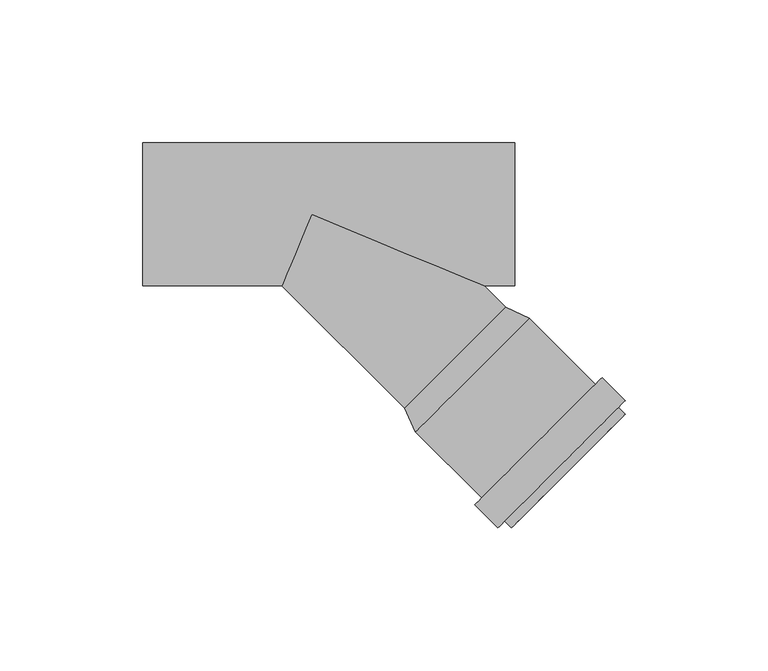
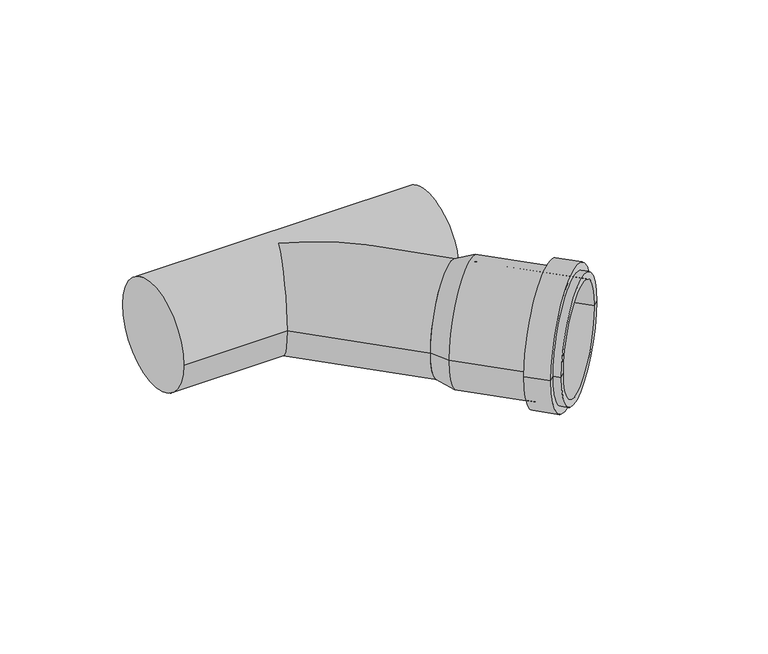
"""IFC4 building model written with IfcOpenShell, lengths in millimetres: pipe fitting geometry, pf_HTEA : pf_HTEA."""

from ifc_helpers import new_model, si_unit, frame, origin, place, context, project, spatial, polyline, circle_curve, ellipse_curve, source, transform, mapped, element, save
from ifc_brep_helpers import plane_surface, cylinder_surface, revolved_surface, advanced_brep


def pipe_fitting_3548051f(model_context):
    return source(origin(), model_context, "Body", "AdvancedBrep", [
        advanced_brep(
        [(32.5269119, -67.882251, 0.0), (67.882251, -32.5269119, 0.0), (76.0846897, -36.3452886, 0.0), (36.3452886, -76.0846897, 0.0), (50.2045815, -50.2045815, 0.0), (69.9328607, -109.6722618, 0.0), (109.6722618, -69.9328607, 0.0), (107.4802307, -72.1248917, 0.0), (72.1248917, -107.4802307, 0.0), (67.5286976, -107.2680987, 0.0), (107.2680987, -67.5286976, 0.0), (65.1245345, -109.6722618, 0.0), (109.6722618, -65.1245345, 0.0), (57.0635172, -101.6112445, 0.0), (101.6112445, -57.0635172, 0.0), (59.4676803, -99.2070814, 0.0), (99.2070814, -59.4676803, 0.0), (38.5373196, -73.8926586, 0.0), (73.8926586, -38.5373196, 0.0), (56.2149891, -56.2149891, 0.0)],
        [
            (0, 1, circle_curve(frame((50.2045815, -50.2045815, 0.0), z_axis=(0.7071067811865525, -0.7071067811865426, 0.0), x_axis=(0.7071067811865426, 0.7071067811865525, 0.0)), 25.0)),
            (1, 2),
            (2, 3, circle_curve(frame((56.2149891, -56.2149891, 0.0), z_axis=(-0.7071067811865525, 0.7071067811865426, 0.0), x_axis=(0.7071067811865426, 0.7071067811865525, 0.0)), 28.1)),
            (3, 0),
            (1, 0, circle_curve(frame((50.2045815, -50.2045815, 0.0), z_axis=(0.7071067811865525, -0.7071067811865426, 0.0), x_axis=(0.7071067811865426, 0.7071067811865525, 0.0)), 25.0)),
            (3, 2, circle_curve(frame((56.2149891, -56.2149891, 0.0), z_axis=(-0.7071067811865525, 0.7071067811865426, 0.0), x_axis=(0.7071067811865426, 0.7071067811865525, 0.0)), 28.1)),
            (4, 1),
            (0, 4),
            (5, 6, circle_curve(frame((89.8025612, -89.8025612, 0.0), z_axis=(0.7071067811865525, -0.7071067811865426, 0.0), x_axis=(0.7071067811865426, 0.7071067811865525, 0.0)), 28.1)),
            (6, 7),
            (7, 8, circle_curve(frame((89.8025612, -89.8025612, 0.0), z_axis=(-0.7071067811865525, 0.7071067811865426, 0.0), x_axis=(0.7071067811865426, 0.7071067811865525, 0.0)), 25.0)),
            (8, 5),
            (6, 5, circle_curve(frame((89.8025612, -89.8025612, 0.0), z_axis=(0.7071067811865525, -0.7071067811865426, 0.0), x_axis=(0.7071067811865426, 0.7071067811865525, 0.0)), 28.1)),
            (8, 7, circle_curve(frame((89.8025612, -89.8025612, 0.0), z_axis=(-0.7071067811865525, 0.7071067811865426, 0.0), x_axis=(0.7071067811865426, 0.7071067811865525, 0.0)), 25.0)),
            (9, 10, circle_curve(frame((87.3983982, -87.3983982, 0.0), z_axis=(0.7071067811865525, -0.7071067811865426, 0.0), x_axis=(0.7071067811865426, 0.7071067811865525, 0.0)), 28.1)),
            (10, 6),
            (5, 9),
            (10, 9, circle_curve(frame((87.3983982, -87.3983982, 0.0), z_axis=(0.7071067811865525, -0.7071067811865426, 0.0), x_axis=(0.7071067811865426, 0.7071067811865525, 0.0)), 28.1)),
            (11, 12, circle_curve(frame((87.3983982, -87.3983982, 0.0), z_axis=(0.7071067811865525, -0.7071067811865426, 0.0), x_axis=(0.7071067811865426, 0.7071067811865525, 0.0)), 31.5)),
            (12, 10),
            (9, 11),
            (12, 11, circle_curve(frame((87.3983982, -87.3983982, 0.0), z_axis=(0.7071067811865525, -0.7071067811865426, 0.0), x_axis=(0.7071067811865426, 0.7071067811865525, 0.0)), 31.5)),
            (13, 14, circle_curve(frame((79.3373808, -79.3373808, 0.0), z_axis=(0.7071067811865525, -0.7071067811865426, 0.0), x_axis=(0.7071067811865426, 0.7071067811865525, 0.0)), 31.5)),
            (14, 12),
            (11, 13),
            (14, 13, circle_curve(frame((79.3373808, -79.3373808, 0.0), z_axis=(0.7071067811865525, -0.7071067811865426, 0.0), x_axis=(0.7071067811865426, 0.7071067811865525, 0.0)), 31.5)),
            (15, 16, circle_curve(frame((79.3373808, -79.3373808, 0.0), z_axis=(0.7071067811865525, -0.7071067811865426, 0.0), x_axis=(0.7071067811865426, 0.7071067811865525, 0.0)), 28.1)),
            (16, 14),
            (13, 15),
            (16, 15, circle_curve(frame((79.3373808, -79.3373808, 0.0), z_axis=(0.7071067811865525, -0.7071067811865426, 0.0), x_axis=(0.7071067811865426, 0.7071067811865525, 0.0)), 28.1)),
            (2, 16),
            (15, 3),
            (17, 18, circle_curve(frame((56.2149891, -56.2149891, 0.0), z_axis=(0.7071067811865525, -0.7071067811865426, 0.0), x_axis=(0.7071067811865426, 0.7071067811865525, 0.0)), 25.0)),
            (18, 19),
            (19, 17),
            (18, 17, circle_curve(frame((56.2149891, -56.2149891, 0.0), z_axis=(0.7071067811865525, -0.7071067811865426, 0.0), x_axis=(0.7071067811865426, 0.7071067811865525, 0.0)), 25.0)),
            (7, 18),
            (17, 8),
        ],
        [
            revolved_surface(polyline([(76.0846897, -36.3452886, 0.0), (67.882251, -32.5269119, 0.0)]), (50.2045815, -50.2045815, 0.0), (-0.7071067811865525, 0.7071067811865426, 0.0)),
            plane_surface(frame((50.2045815, -50.2045815, 0.0), z_axis=(-0.7071067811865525, 0.7071067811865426, 0.0), x_axis=(0.7071067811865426, 0.7071067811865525, 0.0))),
            plane_surface(frame((89.8025612, -89.8025612, 0.0), z_axis=(0.7071067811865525, -0.7071067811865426, 0.0), x_axis=(0.7071067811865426, 0.7071067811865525, 0.0))),
            cylinder_surface(frame((50.2045815, -50.2045815, 0.0), z_axis=(-0.7071067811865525, 0.7071067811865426, 0.0), x_axis=(0.7071067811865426, 0.7071067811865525, 0.0)), 28.1),
            plane_surface(frame((87.3983982, -87.3983982, 0.0), z_axis=(0.7071067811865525, -0.7071067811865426, 0.0), x_axis=(0.7071067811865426, 0.7071067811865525, 0.0))),
            cylinder_surface(frame((50.2045815, -50.2045815, 0.0), z_axis=(-0.7071067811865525, 0.7071067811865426, 0.0), x_axis=(0.7071067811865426, 0.7071067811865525, 0.0)), 31.5),
            plane_surface(frame((79.3373808, -79.3373808, 0.0), z_axis=(-0.7071067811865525, 0.7071067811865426, 0.0), x_axis=(0.7071067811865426, 0.7071067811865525, 0.0))),
            plane_surface(frame((56.2149891, -56.2149891, 0.0), z_axis=(0.7071067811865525, -0.7071067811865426, 0.0), x_axis=(0.7071067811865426, 0.7071067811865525, 0.0))),
            revolved_surface(polyline([(73.89265862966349, -38.53731957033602, 0.0), (107.48023072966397, -72.12489167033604, 0.0)]), (50.2045815, -50.2045815, 0.0), (-0.7071067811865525, 0.7071067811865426, 0.0)),
        ],
        [
            (0, [[1, 2, 3, 4]]),
            (0, [[5, -4, 6, -2]]),
            (1, [[7, -1, 8]]),
            (1, [[-8, -5, -7]]),
            (2, [[9, 10, 11, 12]]),
            (2, [[13, -12, 14, -10]]),
            (3, [[15, 16, -9, 17]]),
            (3, [[18, -17, -13, -16]]),
            (4, [[19, 20, -15, 21]]),
            (4, [[22, -21, -18, -20]]),
            (5, [[23, 24, -19, 25]]),
            (5, [[26, -25, -22, -24]]),
            (6, [[27, 28, -23, 29]]),
            (6, [[30, -29, -26, -28]]),
            (3, [[-3, 31, -27, 32]]),
            (3, [[-6, -32, -30, -31]]),
            (7, [[33, 34, 35]]),
            (7, [[36, -35, -34]]),
            (8, [[-11, 37, -33, 38]]),
            (8, [[-14, -38, -36, -37]]),
        ],
    ),
        advanced_brep(
        [(32.5269119, -67.882251, 0.0), (67.882251, -32.5269119, 0.0), (-59.0, -25.0, 0.0), (-59.0, 25.0, 0.0), (71.0, -25.0, 0.0), (71.0, 25.0, 0.0), (-10.3553391, -25.0, 0.0), (0.0, 0.0, 25.0), (60.3553391, -25.0, 0.0), (0.0, 0.0, -25.0)],
        [
            (0, 1, circle_curve(frame((50.2045815, -50.2045815, 0.0), z_axis=(0.7071067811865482, -0.7071067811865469, 0.0), x_axis=(0.7071067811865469, 0.7071067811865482, 0.0)), 25.0)),
            (1, 0, circle_curve(frame((50.2045815, -50.2045815, 0.0), z_axis=(0.7071067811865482, -0.7071067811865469, 0.0), x_axis=(0.7071067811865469, 0.7071067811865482, 0.0)), 25.0)),
            (2, 3, circle_curve(frame((-59.0, 0.0, 0.0), z_axis=(-1.0, 0.0, 0.0), x_axis=(0.0, 1.0, 0.0)), 25.0)),
            (3, 2, circle_curve(frame((-59.0, 0.0, 0.0), z_axis=(-1.0, 0.0, 0.0), x_axis=(0.0, 1.0, 0.0)), 25.0)),
            (4, 5, circle_curve(frame((71.0, 0.0, 0.0), z_axis=(1.0, 0.0, 0.0), x_axis=(0.0, 1.0, 0.0)), 25.0)),
            (5, 4, circle_curve(frame((71.0, 0.0, 0.0), z_axis=(1.0, 0.0, 0.0), x_axis=(0.0, 1.0, 0.0)), 25.0)),
            (2, 6),
            (6, 7, ellipse_curve(frame((0.0, 0.0, 0.0), z_axis=(-0.9238795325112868, 0.3826834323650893, 0.0), x_axis=(-0.3826834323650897, -0.9238795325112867, 0.0)), 27.059805, 25.0)),
            (7, 8, ellipse_curve(frame((0.0, 0.0, 0.0), z_axis=(0.3826834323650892, 0.923879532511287, 0.0), x_axis=(-0.9238795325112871, 0.3826834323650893, 0.0)), 65.3281482, 25.0)),
            (8, 4),
            (5, 3),
            (8, 9, ellipse_curve(frame((0.0, 0.0, 0.0), z_axis=(0.3826834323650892, 0.923879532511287, 0.0), x_axis=(-0.9238795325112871, 0.3826834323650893, 0.0)), 65.3281482, 25.0)),
            (9, 6, ellipse_curve(frame((0.0, 0.0, 0.0), z_axis=(-0.9238795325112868, 0.3826834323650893, 0.0), x_axis=(-0.3826834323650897, -0.9238795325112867, 0.0)), 27.059805, 25.0)),
            (1, 8),
            (6, 0),
        ],
        [
            plane_surface(frame((50.2045815, -50.2045815, 0.0), z_axis=(0.7071067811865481, -0.7071067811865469, 0.0), x_axis=(0.0, 0.0, 1.0))),
            plane_surface(frame((-59.0, 0.0, 0.0), z_axis=(-1.0, 0.0, 0.0), x_axis=(0.0, 0.0, 1.0))),
            plane_surface(frame((71.0, 0.0, 0.0), z_axis=(1.0, 0.0, 0.0), x_axis=(0.0, 0.0, 1.0))),
            cylinder_surface(frame((-59.0, 0.0, 0.0), z_axis=(-1.0, 0.0, 0.0), x_axis=(0.0, 1.0, 0.0)), 25.0),
            cylinder_surface(frame((0.0, 0.0, 0.0), z_axis=(-0.7071067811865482, 0.7071067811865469, 0.0), x_axis=(0.7071067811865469, 0.7071067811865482, 0.0)), 25.0),
        ],
        [
            (0, [[1, 2]]),
            (1, [[3, 4]]),
            (2, [[5, 6]]),
            (3, [[-3, 7, 8, 9, 10, -6, 11]]),
            (3, [[-4, -11, -5, -10, 12, 13, -7]]),
            (4, [[-2, 14, -9, -8, 15]]),
            (4, [[-1, -15, -13, -12, -14]]),
        ],
    ),
    ])


if __name__ == "__main__":
    model = new_model("IFC4")
    model_context = context("Model", 3, world=origin())
    ifc_project = project(units=[si_unit("LENGTHUNIT", "METRE", prefix="MILLI")], contexts=[model_context])
    site = spatial("IfcSite", under=ifc_project)
    building = spatial("IfcBuilding", under=site)
    placement = place(None, origin())
    pipe_fitting_shape = pipe_fitting_3548051f(model_context)
    element("IfcPipeFitting", 1, ObjectType="pf_HTEA : pf_HTEA", at=placement, inside=building, context=model_context, shape_type="MappedRepresentation", body=[
        mapped(pipe_fitting_shape, transform((0.0, 0.0, 0.0), x_axis=(1.0, 0.0, 0.0), y_axis=(0.0, 1.0, 0.0), z_axis=(0.0, 0.0, 1.0))),
    ])
    save(model, "model.ifc")
